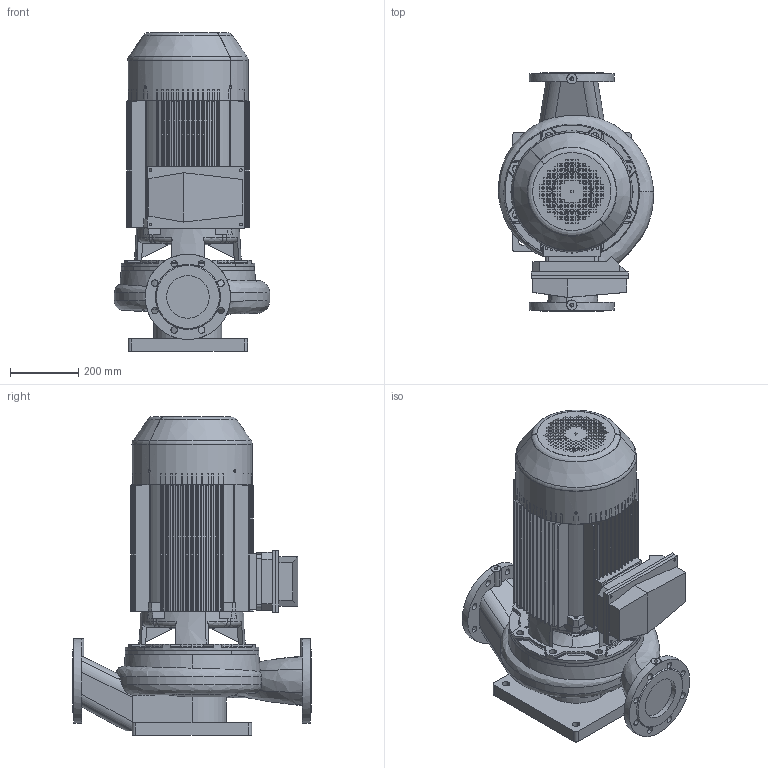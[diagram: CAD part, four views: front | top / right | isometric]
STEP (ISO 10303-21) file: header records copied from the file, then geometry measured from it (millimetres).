
FILE_DESCRIPTION(('STEP AP214'),'1');
FILE_NAME('export.stp','2018-05-28T12:01:17',(' '),(' '),'Spatial InterOp 3D',' ',' ');
FILE_SCHEMA(('AUTOMOTIVE_DESIGN { 1 0 10303 214 1 1 1 1 }'));
Length unit declared in the file: millimetre
Products named in the file (12): W_AL11284220KP187; V_TLL100SAL1202; V_PPALP1128; PP_ALP1128_kesken; Tukijalka_ALP1128; V_MKP187-K2-BF32; R201280; R200132; R200136; R200138; R200137; R201121
Assembly tree (11 placements, depth 3):
  W_AL11284220KP187
    V_TLL100SAL1202
    V_PPALP1128
      PP_ALP1128_kesken
      Tukijalka_ALP1128
    V_MKP187-K2-BF32
      R201280
      R200132
      R200136
      R200138
      R200137
      R201121
Bounding box: 455.89 x 700 x 935.5 mm (x, y, z)
Volume: 46862728.2 mm3; surface area: 5046275.2 mm2
Topology: 9 solids, 9 shells, 2175 faces, 6387 edges, 4223 vertices
Faces by surface type: plane 1227, cylinder 793, torus 65, cone 58, bspline 21, sphere 11
Entity records: 111617 total; most frequent: CARTESIAN_POINT 17958, ORIENTED_EDGE 12744, DIRECTION 12288, EDGE_CURVE 6372, STYLED_ITEM 5368, PRESENTATION_STYLE_ASSIGNMENT 5368, COLOUR_RGB 5368, VERTEX_POINT 4223
